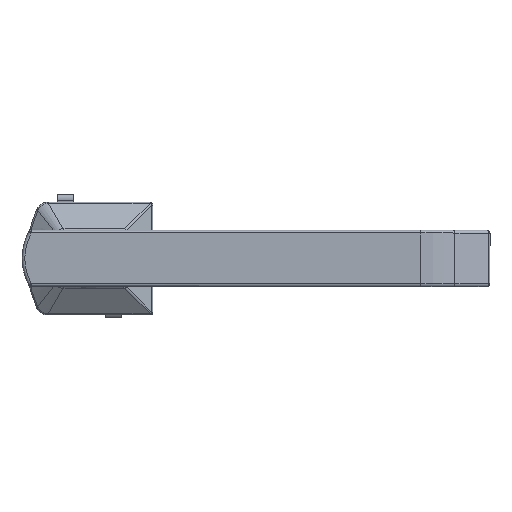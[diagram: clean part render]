
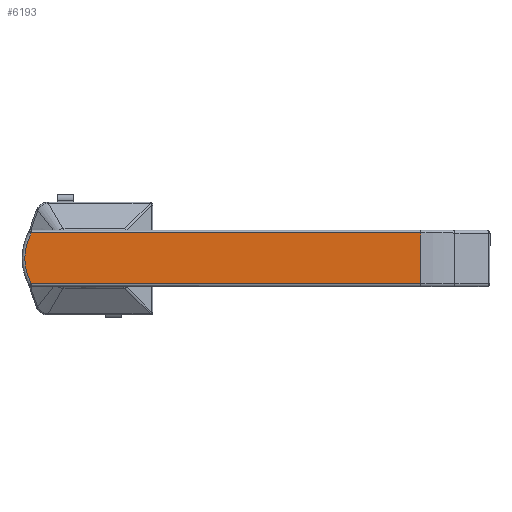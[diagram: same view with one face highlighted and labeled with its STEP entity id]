
A CAD part, top view. The second image highlights one B-rep face of the part: STEP entity #6193.
In plain terms, the highlighted planar face has unit normal (0, 0, 1).
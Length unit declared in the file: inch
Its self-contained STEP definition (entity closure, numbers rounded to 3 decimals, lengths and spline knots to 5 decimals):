
#1500 = EDGE_LOOP ( 'NONE', ( #13051, #9337, #2019, #6504 ) ) ;
#2019 = ORIENTED_EDGE ( 'NONE', *, *, #16795, .F. ) ;
#2326 = DIRECTION ( 'NONE',  ( 0., 0., 1. ) ) ;
#3592 = CARTESIAN_POINT ( 'NONE',  ( -20.66002, 1.39817, 3.47009 ) ) ;
#3732 = CARTESIAN_POINT ( 'NONE',  ( -20.73214, 0.96416, 3.47009 ) ) ;
#4273 = CARTESIAN_POINT ( 'NONE',  ( -14.09382, 0.61279, 3.47009 ) ) ;
#5651 = CARTESIAN_POINT ( 'NONE',  ( -20.62505, 0.61279, 3.47009 ) ) ;
#5791 = CARTESIAN_POINT ( 'NONE',  ( -20.62505, 1.46319, 3.47009 ) ) ;
#5976 = CARTESIAN_POINT ( 'NONE',  ( -18.44798, 0.61279, 3.47009 ) ) ;
#6193 = ADVANCED_FACE ( 'NONE', ( #16768 ), #25534, .T. ) ;
#6325 = CARTESIAN_POINT ( 'NONE',  ( -20.62505, 1.46319, 3.47009 ) ) ;
#6504 = ORIENTED_EDGE ( 'NONE', *, *, #24891, .F. ) ;
#7424 = EDGE_CURVE ( 'NONE', #12031, #22343, #27064, .T. ) ;
#7953 = VERTEX_POINT ( 'NONE', #13067 ) ;
#9080 = VERTEX_POINT ( 'NONE', #26060 ) ;
#9337 = ORIENTED_EDGE ( 'NONE', *, *, #11874, .T. ) ;
#10364 = CARTESIAN_POINT ( 'NONE',  ( -14.09382, 0.61279, 3.47009 ) ) ;
#10437 = CARTESIAN_POINT ( 'NONE',  ( -18.44798, 1.46319, 3.47009 ) ) ;
#10482 = CARTESIAN_POINT ( 'NONE',  ( -14.09382, 0.61279, 3.47009 ) ) ;
#11874 = EDGE_CURVE ( 'NONE', #12031, #9080, #16246, .T. ) ;
#12031 = VERTEX_POINT ( 'NONE', #4273 ) ;
#12681 = CARTESIAN_POINT ( 'NONE',  ( -14.09382, 1.46319, 3.47009 ) ) ;
#13051 = ORIENTED_EDGE ( 'NONE', *, *, #7424, .F. ) ;
#13067 = CARTESIAN_POINT ( 'NONE',  ( -20.62505, 1.46319, 3.47009 ) ) ;
#14028 = CARTESIAN_POINT ( 'NONE',  ( -20.72299, 1.18564, 3.47009 ) ) ;
#14823 = CARTESIAN_POINT ( 'NONE',  ( -14.09382, 1.46319, 3.47009 ) ) ;
#14876 = B_SPLINE_CURVE_WITH_KNOTS ( 'NONE', 3,
 ( #5651, #18036, #22157, #26396, #3732, #16227, #14028, #24614, #3592, #5791 ),
 .UNSPECIFIED., .F., .F.,
 ( 4, 2, 2, 2, 4 ),
 ( 0., 0.25, 0.5, 0.75, 1. ),
 .UNSPECIFIED. ) ;
#15302 = AXIS2_PLACEMENT_3D ( 'NONE', #25269, #2326, #21029 ) ;
#16142 = CARTESIAN_POINT ( 'NONE',  ( -20.62505, 0.61279, 3.47009 ) ) ;
#16227 = CARTESIAN_POINT ( 'NONE',  ( -20.73214, 1.11182, 3.47009 ) ) ;
#16246 = B_SPLINE_CURVE_WITH_KNOTS ( 'NONE', 3,
 ( #10482, #18885, #23676, #12681 ),
 .UNSPECIFIED., .F., .F.,
 ( 4, 4 ),
 ( 0., 1. ),
 .UNSPECIFIED. ) ;
#16638 = CARTESIAN_POINT ( 'NONE',  ( -16.2709, 1.46319, 3.47009 ) ) ;
#16768 = FACE_OUTER_BOUND ( 'NONE', #1500, .T. ) ;
#16795 = EDGE_CURVE ( 'NONE', #7953, #9080, #22230, .T. ) ;
#18036 = CARTESIAN_POINT ( 'NONE',  ( -20.66002, 0.67781, 3.47009 ) ) ;
#18885 = CARTESIAN_POINT ( 'NONE',  ( -14.09382, 0.89626, 3.47009 ) ) ;
#21029 = DIRECTION ( 'NONE',  ( -1., 0., 0. ) ) ;
#22157 = CARTESIAN_POINT ( 'NONE',  ( -20.68693, 0.74716, 3.47009 ) ) ;
#22230 = B_SPLINE_CURVE_WITH_KNOTS ( 'NONE', 3,
 ( #6325, #10437, #16638, #14823 ),
 .UNSPECIFIED., .F., .F.,
 ( 4, 4 ),
 ( 0., 1. ),
 .UNSPECIFIED. ) ;
#22343 = VERTEX_POINT ( 'NONE', #24462 ) ;
#22613 = CARTESIAN_POINT ( 'NONE',  ( -16.2709, 0.61279, 3.47009 ) ) ;
#23676 = CARTESIAN_POINT ( 'NONE',  ( -14.09382, 1.17972, 3.47009 ) ) ;
#24462 = CARTESIAN_POINT ( 'NONE',  ( -20.62505, 0.61279, 3.47009 ) ) ;
#24614 = CARTESIAN_POINT ( 'NONE',  ( -20.68693, 1.32882, 3.47009 ) ) ;
#24891 = EDGE_CURVE ( 'NONE', #22343, #7953, #14876, .T. ) ;
#25269 = CARTESIAN_POINT ( 'NONE',  ( -17.26029, 1.03799, 3.47009 ) ) ;
#25534 = PLANE ( 'NONE',  #15302 ) ;
#26060 = CARTESIAN_POINT ( 'NONE',  ( -14.09382, 1.46319, 3.47009 ) ) ;
#26396 = CARTESIAN_POINT ( 'NONE',  ( -20.72299, 0.89034, 3.47009 ) ) ;
#27064 = B_SPLINE_CURVE_WITH_KNOTS ( 'NONE', 3,
 ( #10364, #22613, #5976, #16142 ),
 .UNSPECIFIED., .F., .F.,
 ( 4, 4 ),
 ( 0., 1. ),
 .UNSPECIFIED. ) ;
